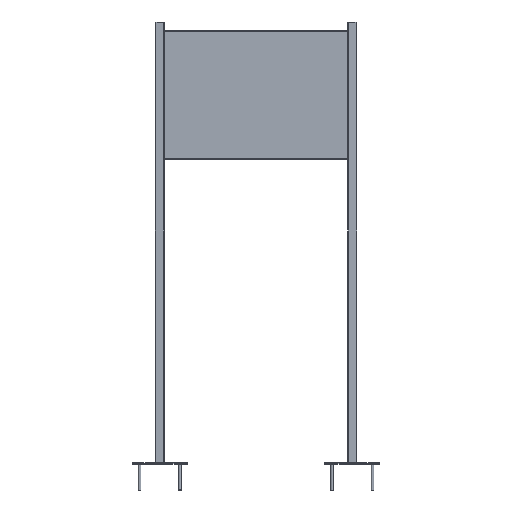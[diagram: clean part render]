
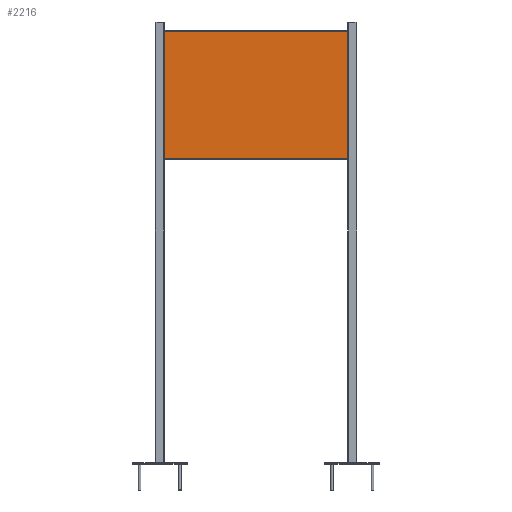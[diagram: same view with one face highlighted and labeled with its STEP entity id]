
A CAD part, left-side view. The second image highlights one B-rep face of the part: STEP entity #2216.
In plain terms, the highlighted planar face has unit normal (-1, 0, 0).
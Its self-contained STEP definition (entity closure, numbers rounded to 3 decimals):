
#336=PLANE('',#2609);
#448=FACE_OUTER_BOUND('',#600,.T.);
#600=EDGE_LOOP('',(#1864,#1865,#1866,#1867));
#743=LINE('',#3732,#935);
#759=LINE('',#3773,#951);
#774=LINE('',#3808,#966);
#776=LINE('',#3811,#968);
#935=VECTOR('',#3060,10.);
#951=VECTOR('',#3102,10.);
#966=VECTOR('',#3141,10.);
#968=VECTOR('',#3145,10.);
#1138=VERTEX_POINT('',#3729);
#1139=VERTEX_POINT('',#3731);
#1150=VERTEX_POINT('',#3770);
#1151=VERTEX_POINT('',#3772);
#1365=EDGE_CURVE('',#1139,#1138,#743,.T.);
#1385=EDGE_CURVE('',#1151,#1150,#759,.T.);
#1403=EDGE_CURVE('',#1139,#1150,#774,.T.);
#1405=EDGE_CURVE('',#1151,#1138,#776,.T.);
#1864=ORIENTED_EDGE('',*,*,#1365,.T.);
#1865=ORIENTED_EDGE('',*,*,#1405,.F.);
#1866=ORIENTED_EDGE('',*,*,#1385,.T.);
#1867=ORIENTED_EDGE('',*,*,#1403,.F.);
#2216=ADVANCED_FACE('',(#448),#336,.F.);
#2609=AXIS2_PLACEMENT_3D('',#3810,#3143,#3144);
#3060=DIRECTION('',(0.,0.,1.));
#3102=DIRECTION('',(0.,0.,-1.));
#3141=DIRECTION('',(0.,1.,0.));
#3143=DIRECTION('center_axis',(1.,0.,0.));
#3144=DIRECTION('ref_axis',(0.,0.,-1.));
#3145=DIRECTION('',(0.,-1.,0.));
#3729=CARTESIAN_POINT('',(0.,-574.417,-40.79));
#3731=CARTESIAN_POINT('',(0.,-574.417,-1040.79));
#3732=CARTESIAN_POINT('',(0.,-574.417,-790.79));
#3770=CARTESIAN_POINT('',(0.,119.583,-1040.79));
#3772=CARTESIAN_POINT('',(0.,119.583,-40.79));
#3773=CARTESIAN_POINT('',(0.,119.583,-290.79));
#3808=CARTESIAN_POINT('',(0.,-577.417,-1040.79));
#3810=CARTESIAN_POINT('Origin',(0.,-227.417,-540.79));
#3811=CARTESIAN_POINT('',(0.,122.583,-40.79));
